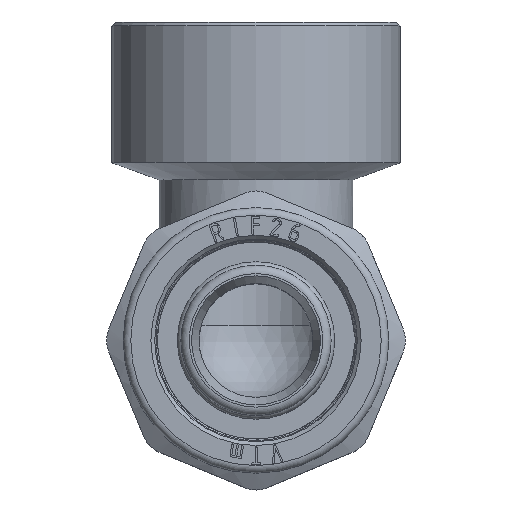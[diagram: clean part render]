
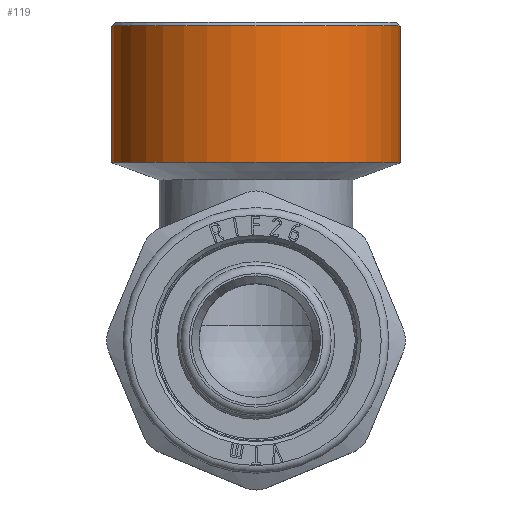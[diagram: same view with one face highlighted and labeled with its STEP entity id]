
A CAD part, top view. The second image highlights one B-rep face of the part: STEP entity #119.
In plain terms, the highlighted cylindrical face has radius 19 mm (diameter 38 mm), a full revolution.
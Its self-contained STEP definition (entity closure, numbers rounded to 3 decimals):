
#119=ADVANCED_FACE('',(#1142,#1144),#1146,.T.);
#1142=FACE_OUTER_BOUND('',#1143,.T.);
#1143=EDGE_LOOP('',(#4321));
#1144=FACE_OUTER_BOUND('',#1145,.T.);
#1145=EDGE_LOOP('',(#4322));
#1146=CYLINDRICAL_SURFACE('',#1147,19.);
#1147=AXIS2_PLACEMENT_3D('',#1148,#1149,#1150);
#1148=CARTESIAN_POINT('',(0.,23.5,0.));
#1149=DIRECTION('',(0.,1.,0.));
#1150=DIRECTION('',(-1.,0.,0.));
#4321=ORIENTED_EDGE('',*,*,#7220,.F.);
#4322=ORIENTED_EDGE('',*,*,#7007,.F.);
#7007=EDGE_CURVE('',#8328,#8328,#8329,.F.);
#7220=EDGE_CURVE('',#8751,#8751,#8752,.T.);
#8328=VERTEX_POINT('',#11154);
#8329=CIRCLE('',#11155,19.);
#8751=VERTEX_POINT('',#12994);
#8752=CIRCLE('',#12995,19.);
#11154=CARTESIAN_POINT('',(-19.,23.5,0.));
#11155=AXIS2_PLACEMENT_3D('',#11156,#11157,#11158);
#11156=CARTESIAN_POINT('',(0.,23.5,0.));
#11157=DIRECTION('',(0.,1.,0.));
#11158=DIRECTION('',(-1.,0.,0.));
#12994=CARTESIAN_POINT('',(-19.,41.5,0.));
#12995=AXIS2_PLACEMENT_3D('',#12996,#12997,#12998);
#12996=CARTESIAN_POINT('',(0.,41.5,0.));
#12997=DIRECTION('',(0.,1.,0.));
#12998=DIRECTION('',(-1.,0.,0.));
